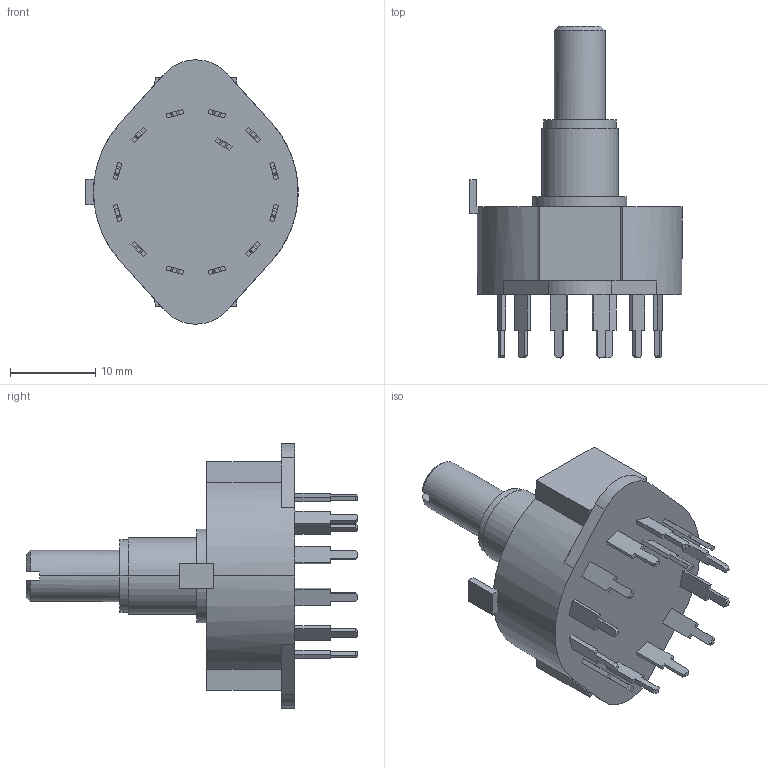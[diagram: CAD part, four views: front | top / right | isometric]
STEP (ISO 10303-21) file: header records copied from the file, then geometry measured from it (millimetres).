
FILE_DESCRIPTION (( 'STEP AP214' ), '1' );
FILE_NAME ('SRRM1C5400.STEP', '2011-04-13T02:38:18', ( '' ), ( '' ), 'SwSTEP 2.0', 'SolidWorks 2007', '' );
FILE_SCHEMA (( 'AUTOMOTIVE_DESIGN' ));
Length unit declared in the file: millimetre
Products named in the file (1): SRRM1C5400
Bounding box: 24.9 x 38.9 x 31 mm (x, y, z)
Volume: 6124.1 mm3; surface area: 2838 mm2
Topology: 1 solids, 1 shells, 194 faces, 517 edges, 342 vertices
Faces by surface type: plane 179, cylinder 13, cone 2
Entity records: 8096 total; most frequent: CARTESIAN_POINT 1066, ORIENTED_EDGE 1034, DIRECTION 941, EDGE_CURVE 517, LINE 475, VECTOR 475, VERTEX_POINT 342, AXIS2_PLACEMENT_3D 233
